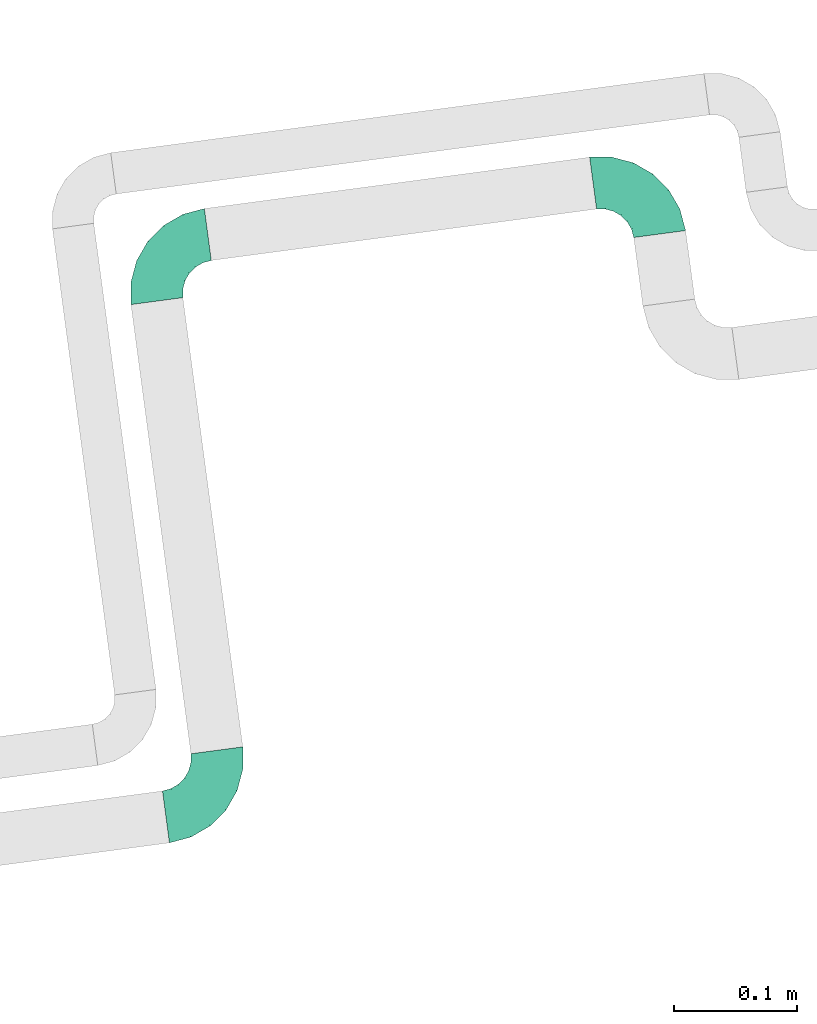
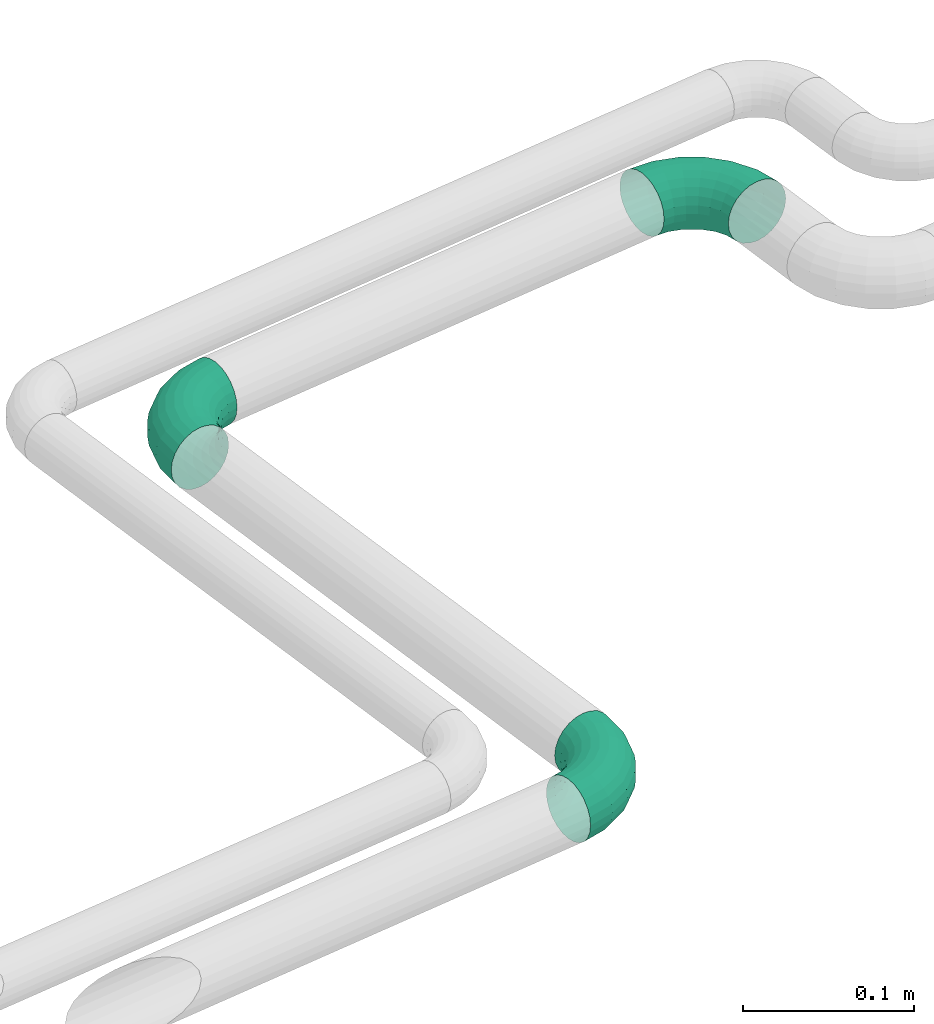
# One storey, part 186 of 374: 3 flow segments.
"""IFC2X3 building model written with IfcOpenShell, lengths in metres."""

from ifc_helpers import new_model, si_unit, direction, origin, place, context, subcontext, project, spatial, open_shell, surface_model, source, transform, mapped, element, save


model = new_model("IFC2X3")

# Units and contexts
model_context = context("Model", 3, precision=1e-05, world=origin(), true_north=direction((-0.4480736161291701, 0.8939966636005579)))
body_context = subcontext(model_context, "Body", "Model", "MODEL_VIEW")
ifc_project = project(units=[si_unit("LENGTHUNIT", "METRE"), si_unit("AREAUNIT", "SQUARE_METRE"), si_unit("VOLUMEUNIT", "CUBIC_METRE"), si_unit("PLANEANGLEUNIT", "RADIAN"), si_unit("THERMODYNAMICTEMPERATUREUNIT", "KELVIN"), si_unit("MASSUNIT", "GRAM", prefix="KILO"), si_unit("TIMEUNIT", "SECOND")], contexts=[model_context])

# Site, building, storey
site_placement = place(None, origin())
site = spatial("IfcSite", under=ifc_project, at=site_placement, Name="Site 1", CompositionType="ELEMENT")
building_placement = place(site_placement, origin())
building = spatial("IfcBuilding", under=site, at=building_placement, Name="Undefined", CompositionType="ELEMENT")
storey_placement = place(building_placement, origin())
storey = spatial("IfcBuildingStorey", under=building, at=storey_placement, Name="Rez de chauss\x8ee", CompositionType="ELEMENT", Elevation=0.0)

# Flow segments
shared_shape_1 = source(origin(), body_context, "Body", "SurfaceModel", [
    surface_model("IfcFaceBasedSurfaceModel", [(0.01806482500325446, 7.105427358e-15, 0.0), (0.017970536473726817, 0.005533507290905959, 0.0), (9.428852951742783e-05, 0.005533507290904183, 1.776356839e-15), (0.0, 0.0, 0.0), (-0.017172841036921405, 0.00613233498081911, -0.004587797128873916), (-0.01744928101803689, 0.0006051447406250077, -0.004636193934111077), (-0.03265412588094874, 0.007289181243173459, -0.013450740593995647), (-0.0330938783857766, 0.0017741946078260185, -0.013592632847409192), (-0.045294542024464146, 0.008925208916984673, -0.02598483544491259), (-0.045867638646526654, 0.0034274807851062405, -0.02625895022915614), (-0.054232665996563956, 0.010928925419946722, -0.041335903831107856), (-0.05490005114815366, 0.005452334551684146, -0.04177195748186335), (-0.05885937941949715, 0.013163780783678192, -0.05845779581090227), (-0.059575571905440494, 0.007710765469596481, -0.05907446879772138), (0.01769409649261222, 0.010875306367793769, -0.0014203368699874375), (0.00037072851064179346, 0.010875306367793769, -0.0014203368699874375), (-0.016362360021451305, 0.011455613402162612, -0.005866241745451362), (-0.03136483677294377, 0.012576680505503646, -0.014455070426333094), (-0.04361430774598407, 0.014162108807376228, -0.026601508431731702), (-0.05227599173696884, 0.016103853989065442, -0.0414777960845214), (-0.05675960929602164, 0.018269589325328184, -0.05807013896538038), (0.017254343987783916, 0.015661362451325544, -0.0041642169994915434), (0.0008104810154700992, 0.015661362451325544, -0.004164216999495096), (-0.01507307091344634, 0.016212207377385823, -0.008384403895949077), (-0.029313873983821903, 0.01727635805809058, -0.016537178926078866), (-0.04094144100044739, 0.01878129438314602, -0.02806694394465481), (-0.049163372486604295, 0.02062445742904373, -0.042187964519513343), (-0.05341935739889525, 0.02268023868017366, -0.05793791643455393), (0.016681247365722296, 0.01956551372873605, -0.008044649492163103), (0.001383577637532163, 0.01956551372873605, -0.008044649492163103), (-0.01339283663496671, 0.020077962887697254, -0.011970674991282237), (-0.026641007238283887, 0.021067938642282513, -0.01955517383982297), (-0.03745809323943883, 0.02246797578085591, -0.03028127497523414), (-0.04510692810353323, 0.0241826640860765, -0.04341801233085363), (-0.04906625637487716, 0.026095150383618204, -0.05807013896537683), (0.016013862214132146, 0.022321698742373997, -0.012797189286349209), (0.0020509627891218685, 0.022321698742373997, -0.012797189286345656), (-0.011436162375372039, 0.02278943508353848, -0.016380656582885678), (-0.023528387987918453, 0.02369303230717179, -0.023303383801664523), (-0.03340164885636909, 0.024970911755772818, -0.03309359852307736), (-0.040383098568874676, 0.026535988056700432, -0.04508411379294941), (-0.04399696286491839, 0.028281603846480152, -0.05845779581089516), (0.015297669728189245, 0.023742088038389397, -0.018097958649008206), (0.00276715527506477, 0.023742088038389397, -0.018097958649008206), (-0.009336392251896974, 0.024161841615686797, -0.021313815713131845), (-0.02018813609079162, 0.02497274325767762, -0.0275263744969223), (-0.029048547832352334, 0.02611953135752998, -0.03631225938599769), (-0.03531380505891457, 0.027524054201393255, -0.04707272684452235), (-0.0385569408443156, 0.02909059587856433, -0.05907446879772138), (0.014581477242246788, 0.023729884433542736, -0.02358571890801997), (0.0034833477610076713, 0.023729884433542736, -0.02358571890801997), (-0.007236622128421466, 0.024101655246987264, -0.026433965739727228), (-0.016847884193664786, 0.02481986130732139, -0.03193635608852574), (-0.02469544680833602, 0.02583555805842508, -0.03971791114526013), (-0.0302445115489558, 0.027079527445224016, -0.04924833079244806), (-0.03311691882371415, 0.02846699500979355, -0.059878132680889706), (0.013914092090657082, 0.02228591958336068, -0.02888648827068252), (0.004150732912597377, 0.022285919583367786, -0.028886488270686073), (-0.005279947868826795, 0.022612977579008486, -0.031392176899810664), (-0.013735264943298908, 0.023244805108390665, -0.03623279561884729), (-0.020639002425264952, 0.02413834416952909, -0.04307846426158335), (-0.025520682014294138, 0.025232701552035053, -0.051462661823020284), (-0.028047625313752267, 0.026453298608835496, -0.060814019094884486), (0.013340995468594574, 0.01950859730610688, -0.03363902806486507), (0.0047238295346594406, 0.01950859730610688, -0.033639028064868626), (-0.0035997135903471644, 0.019797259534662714, -0.035850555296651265), (-0.011062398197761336, 0.0203549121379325, -0.04012289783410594), (-0.017155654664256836, 0.021143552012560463, -0.04616490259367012), (-0.02146423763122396, 0.022109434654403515, -0.05356481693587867), (-0.02369452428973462, 0.023186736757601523, -0.06181834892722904), (0.012901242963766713, 0.015587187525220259, -0.037519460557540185), (0.005163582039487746, 0.015587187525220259, -0.03751946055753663), (-0.0023104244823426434, 0.015846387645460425, -0.03950526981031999), (-0.009011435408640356, 0.016347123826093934, -0.043341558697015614), (-0.01448278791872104, 0.017055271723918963, -0.048766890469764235), (-0.018351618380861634, 0.017922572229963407, -0.05541153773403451), (-0.02035427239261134, 0.018889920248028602, -0.06282267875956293), (0.012624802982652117, 0.010788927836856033, -0.040263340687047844), (0.005440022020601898, 0.010788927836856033, -0.0402633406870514), (-0.0014999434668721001, 0.011029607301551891, -0.04210725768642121), (-0.007722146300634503, 0.01149456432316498, -0.045669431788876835), (-0.012802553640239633, 0.012152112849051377, -0.05070710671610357), (-0.0163949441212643, 0.012957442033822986, -0.056876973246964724), (-0.018254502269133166, 0.013855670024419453, -0.06375856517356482), (0.012530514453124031, 0.005440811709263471, -0.041683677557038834), (0.005534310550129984, 0.0054408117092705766, -0.041683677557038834), (-0.0012235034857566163, 0.005675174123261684, -0.04347919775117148), (-0.007282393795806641, 0.006127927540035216, -0.046947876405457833), (-0.012229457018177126, 0.0067682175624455, -0.05185332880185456), (-0.015727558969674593, 0.007552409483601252, -0.05786125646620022), (-0.01753830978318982, 0.008427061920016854, -0.0645622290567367), (0.012624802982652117, -9.269558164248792e-05, -0.04168367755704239), (0.005440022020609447, -9.269558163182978e-05, -0.04168367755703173), (0.005440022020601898, -9.269558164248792e-05, -0.04168367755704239), (-0.0014999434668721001, 0.00014798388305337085, -0.0435275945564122), (-0.007722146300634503, 0.0006129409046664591, -0.047089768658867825), (-0.012802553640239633, 0.001270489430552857, -0.05212744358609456), (-0.0163949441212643, 0.002075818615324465, -0.058297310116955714), (-0.018254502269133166, 0.0029740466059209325, -0.06517890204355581), (0.012901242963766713, -0.005434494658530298, -0.0402633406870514), (0.005163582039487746, -0.005434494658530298, -0.040263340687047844), (-0.0023104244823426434, -0.005175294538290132, -0.0422491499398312), (-0.009011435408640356, -0.004674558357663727, -0.046085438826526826), (-0.01448278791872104, -0.0039664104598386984, -0.051510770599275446), (-0.018351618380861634, -0.0030991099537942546, -0.05815541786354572), (-0.02035427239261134, -0.0021317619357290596, -0.06556655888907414), (0.013340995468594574, -0.010220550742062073, -0.03751946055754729), (0.0047238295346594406, -0.010220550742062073, -0.03751946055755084), (-0.0035997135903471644, -0.009931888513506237, -0.03973098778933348), (-0.011062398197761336, -0.009374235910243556, -0.04400333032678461), (-0.017155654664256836, -0.00858559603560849, -0.05004533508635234), (-0.02146423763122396, -0.007619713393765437, -0.057445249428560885), (-0.02369452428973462, -0.006542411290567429, -0.06569878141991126), (0.013914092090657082, -0.01412470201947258, -0.03363902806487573), (0.004150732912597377, -0.014124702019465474, -0.033639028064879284), (-0.005279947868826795, -0.013797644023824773, -0.036144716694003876), (-0.013735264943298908, -0.013165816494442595, -0.0409853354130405), (-0.020639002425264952, -0.012272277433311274, -0.04783100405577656), (-0.025520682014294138, -0.011177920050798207, -0.05621520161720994), (-0.028047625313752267, -0.009957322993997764, -0.0655665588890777), (0.014581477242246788, -0.01688088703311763, -0.028886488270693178), (0.0034833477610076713, -0.01688088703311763, -0.028886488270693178), (-0.007236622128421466, -0.016509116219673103, -0.031734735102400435), (-0.016847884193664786, -0.015790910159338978, -0.03723712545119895), (-0.02469544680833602, -0.014775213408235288, -0.04501868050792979), (-0.0302445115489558, -0.01353124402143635, -0.054549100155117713), (-0.03311691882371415, -0.012143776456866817, -0.06517890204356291), (0.015297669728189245, -0.01830127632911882, -0.02358571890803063), (0.00276715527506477, -0.01830127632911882, -0.02358571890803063), (-0.009336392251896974, -0.01788152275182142, -0.026801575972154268), (-0.02018813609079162, -0.017070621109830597, -0.033014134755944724), (-0.029048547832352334, -0.01592383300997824, -0.04180001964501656), (-0.03531380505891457, -0.014519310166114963, -0.05256048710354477), (-0.0385569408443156, -0.012952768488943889, -0.06456222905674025), (0.016013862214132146, -0.01828907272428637, -0.018097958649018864), (0.0020509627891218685, -0.01828907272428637, -0.018097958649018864), (-0.011436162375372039, -0.01782133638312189, -0.021681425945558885), (-0.023528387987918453, -0.016917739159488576, -0.02860415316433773), (-0.03340164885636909, -0.01563985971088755, -0.038394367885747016), (-0.040383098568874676, -0.014074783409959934, -0.05038488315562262), (-0.04399696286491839, -0.012329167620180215, -0.06375856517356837), (0.016681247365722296, -0.01684510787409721, -0.012797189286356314), (0.001383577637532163, -0.01684510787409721, -0.012797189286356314), (-0.01339283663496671, -0.016332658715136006, -0.01672321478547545), (-0.026641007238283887, -0.015342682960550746, -0.02430771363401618), (-0.03745809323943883, -0.01394264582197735, -0.03503381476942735), (-0.04510692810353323, -0.01222795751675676, -0.04817055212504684), (-0.04906625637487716, -0.010315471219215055, -0.06282267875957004), (0.017254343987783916, -0.014067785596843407, -0.008044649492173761), (0.0008104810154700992, -0.014067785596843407, -0.008044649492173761), (-0.01507307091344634, -0.013516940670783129, -0.012264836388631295), (-0.029313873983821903, -0.012452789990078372, -0.020417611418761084), (-0.04094144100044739, -0.010947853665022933, -0.03194737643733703), (-0.049163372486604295, -0.009104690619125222, -0.04606839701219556), (-0.05341935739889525, -0.007048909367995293, -0.06181834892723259), (0.01769409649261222, -0.010146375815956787, -0.004164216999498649), (0.00037072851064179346, -0.010146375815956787, -0.004164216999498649), (-0.016362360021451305, -0.009566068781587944, -0.008610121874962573), (-0.03136483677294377, -0.008445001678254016, -0.017198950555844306), (-0.04361430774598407, -0.006859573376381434, -0.029345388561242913), (-0.05227599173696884, -0.00491782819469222, -0.04422167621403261), (-0.05675960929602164, -0.002752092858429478, -0.060814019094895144), (0.017970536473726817, -0.0053481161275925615, -0.0014203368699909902), (9.428852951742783e-05, -0.0053481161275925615, -0.0014203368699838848), (-0.017172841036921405, -0.004749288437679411, -0.006008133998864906), (-0.03265412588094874, -0.0035924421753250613, -0.014871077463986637), (-0.045294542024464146, -0.001956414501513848, -0.02740517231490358), (-0.05423266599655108, 4.73020014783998e-05, -0.042756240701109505), (-0.05885937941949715, 0.002282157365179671, -0.05987813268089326)], [open_shell([[[0, 1, 2, 3]], [[3, 2, 4, 5]], [[5, 4, 6, 7]], [[7, 6, 8, 9]], [[9, 8, 10, 11]], [[11, 10, 12, 13]], [[1, 14, 15, 2]], [[2, 15, 16, 4]], [[4, 16, 17, 6]], [[6, 17, 18, 8]], [[8, 18, 19, 10]], [[10, 19, 20, 12]], [[14, 21, 22, 15]], [[15, 22, 23, 16]], [[16, 23, 24, 17]], [[17, 24, 25, 18]], [[18, 25, 26, 19]], [[19, 26, 27, 20]], [[21, 28, 29, 22]], [[22, 29, 30, 23]], [[23, 30, 31, 24]], [[24, 31, 32, 25]], [[25, 32, 33, 26]], [[26, 33, 34, 27]], [[28, 35, 36, 29]], [[29, 36, 37, 30]], [[30, 37, 38, 31]], [[31, 38, 39, 32]], [[32, 39, 40, 33]], [[33, 40, 41, 34]], [[35, 42, 43, 36]], [[36, 43, 44, 37]], [[37, 44, 45, 38]], [[38, 45, 46, 39]], [[39, 46, 47, 40]], [[40, 47, 48, 41]], [[42, 49, 50, 43]], [[43, 50, 51, 44]], [[44, 51, 52, 45]], [[45, 52, 53, 46]], [[46, 53, 54, 47]], [[47, 54, 55, 48]], [[49, 56, 57, 50]], [[50, 57, 58, 51]], [[51, 58, 59, 52]], [[52, 59, 60, 53]], [[53, 60, 61, 54]], [[54, 61, 62, 55]], [[56, 63, 64, 57]], [[57, 64, 65, 58]], [[58, 65, 66, 59]], [[59, 66, 67, 60]], [[60, 67, 68, 61]], [[61, 68, 69, 62]], [[63, 70, 71, 64]], [[64, 71, 72, 65]], [[65, 72, 73, 66]], [[66, 73, 74, 67]], [[67, 74, 75, 68]], [[68, 75, 76, 69]], [[70, 77, 78, 71]], [[71, 78, 79, 72]], [[72, 79, 80, 73]], [[73, 80, 81, 74]], [[74, 81, 82, 75]], [[75, 82, 83, 76]], [[77, 84, 85, 78]], [[78, 85, 86, 79]], [[79, 86, 87, 80]], [[80, 87, 88, 81]], [[81, 88, 89, 82]], [[82, 89, 90, 83]], [[84, 91, 92, 85]], [[85, 93, 94, 86]], [[86, 94, 95, 87]], [[87, 95, 96, 88]], [[88, 96, 97, 89]], [[89, 97, 98, 90]], [[91, 99, 100, 92]], [[93, 100, 101, 94]], [[94, 101, 102, 95]], [[95, 102, 103, 96]], [[96, 103, 104, 97]], [[97, 104, 105, 98]], [[99, 106, 107, 100]], [[100, 107, 108, 101]], [[101, 108, 109, 102]], [[102, 109, 110, 103]], [[103, 110, 111, 104]], [[104, 111, 112, 105]], [[106, 113, 114, 107]], [[107, 114, 115, 108]], [[108, 115, 116, 109]], [[109, 116, 117, 110]], [[110, 117, 118, 111]], [[111, 118, 119, 112]], [[113, 120, 121, 114]], [[114, 121, 122, 115]], [[115, 122, 123, 116]], [[116, 123, 124, 117]], [[117, 124, 125, 118]], [[118, 125, 126, 119]], [[120, 127, 128, 121]], [[121, 128, 129, 122]], [[122, 129, 130, 123]], [[123, 130, 131, 124]], [[124, 131, 132, 125]], [[125, 132, 133, 126]], [[127, 134, 135, 128]], [[128, 135, 136, 129]], [[129, 136, 137, 130]], [[130, 137, 138, 131]], [[131, 138, 139, 132]], [[132, 139, 140, 133]], [[134, 141, 142, 135]], [[135, 142, 143, 136]], [[136, 143, 144, 137]], [[137, 144, 145, 138]], [[138, 145, 146, 139]], [[139, 146, 147, 140]], [[141, 148, 149, 142]], [[142, 149, 150, 143]], [[143, 150, 151, 144]], [[144, 151, 152, 145]], [[145, 152, 153, 146]], [[146, 153, 154, 147]], [[148, 155, 156, 149]], [[149, 156, 157, 150]], [[150, 157, 158, 151]], [[151, 158, 159, 152]], [[152, 159, 160, 153]], [[153, 160, 161, 154]], [[155, 162, 163, 156]], [[156, 163, 164, 157]], [[157, 164, 165, 158]], [[158, 165, 166, 159]], [[159, 166, 167, 160]], [[160, 167, 168, 161]], [[162, 0, 3, 163]], [[163, 3, 5, 164]], [[164, 5, 7, 165]], [[165, 7, 9, 166]], [[166, 9, 11, 167]], [[167, 11, 13, 168]]])]),
])
flow_segment_1_placement = place(storey_placement, origin())
element("IfcFlowSegment", 1, at=flow_segment_1_placement, inside=storey, Name="Tube coudé", ObjectType="Tube coudé", context=body_context, shape_type="MappedRepresentation", body=[
    mapped(shared_shape_1, transform((63.766017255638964, 20.22006010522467, 4.0051404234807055), x_axis=(-0.9999984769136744, -0.0017453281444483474, 0.0), y_axis=(0.00022589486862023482, -0.12942811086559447, 0.9915887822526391), z_axis=(-0.0017306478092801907, 0.9915872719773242, 0.12942830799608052))),
])
flow_segment_2_placement = place(storey_placement, origin())
element("IfcFlowSegment", 2, at=flow_segment_2_placement, inside=storey, Name="Tube coudé", ObjectType="Tube coudé", context=body_context, shape_type="MappedRepresentation", body=[
    mapped(shared_shape_1, transform((63.37642499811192, 20.118711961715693, 4.0051404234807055), x_axis=(0.0017453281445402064, -0.999998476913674, 0.0), y_axis=(0.1294281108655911, 0.0002258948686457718, 0.9915887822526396), z_axis=(-0.9915872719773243, -0.0017306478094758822, 0.1294283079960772))),
])
shared_shape_2 = source(origin(), body_context, "Body", "SurfaceModel", [
    surface_model("IfcFaceBasedSurfaceModel", [(0.01806482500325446, 7.105427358e-15, 0.0), (0.017970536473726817, 0.005533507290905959, 0.0), (9.428852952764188e-05, 0.005533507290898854, 0.0), (0.0, 0.0, 0.0), (-0.017172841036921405, 0.00613233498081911, -0.004587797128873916), (-0.01744928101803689, 0.0006051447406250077, -0.004636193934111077), (-0.03265412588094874, 0.007289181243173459, -0.013450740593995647), (-0.0330938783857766, 0.0017741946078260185, -0.013592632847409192), (-0.045294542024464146, 0.008925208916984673, -0.02598483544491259), (-0.045867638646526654, 0.0034274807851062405, -0.02625895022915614), (-0.054232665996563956, 0.010928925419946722, -0.041335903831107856), (-0.05490005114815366, 0.005452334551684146, -0.04177195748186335), (-0.05885937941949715, 0.013163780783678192, -0.05845779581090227), (-0.059575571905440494, 0.007710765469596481, -0.05907446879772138), (0.01769409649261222, 0.010875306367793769, -0.0014203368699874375), (0.00037072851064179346, 0.010875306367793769, -0.0014203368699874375), (-0.016362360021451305, 0.011455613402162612, -0.005866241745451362), (-0.03136483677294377, 0.012576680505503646, -0.014455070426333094), (-0.04361430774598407, 0.014162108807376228, -0.026601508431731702), (-0.05227599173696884, 0.016103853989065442, -0.0414777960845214), (-0.05675960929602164, 0.018269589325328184, -0.05807013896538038), (0.017254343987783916, 0.015661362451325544, -0.0041642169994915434), (0.0008104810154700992, 0.015661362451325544, -0.004164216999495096), (-0.01507307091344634, 0.016212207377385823, -0.008384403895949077), (-0.029313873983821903, 0.01727635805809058, -0.016537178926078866), (-0.04094144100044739, 0.01878129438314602, -0.02806694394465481), (-0.049163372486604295, 0.02062445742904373, -0.042187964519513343), (-0.05341935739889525, 0.02268023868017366, -0.05793791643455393), (0.016681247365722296, 0.01956551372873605, -0.008044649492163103), (0.001383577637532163, 0.01956551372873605, -0.008044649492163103), (-0.01339283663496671, 0.020077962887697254, -0.011970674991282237), (-0.026641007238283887, 0.021067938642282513, -0.01955517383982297), (-0.03745809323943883, 0.02246797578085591, -0.03028127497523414), (-0.04510692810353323, 0.0241826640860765, -0.04341801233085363), (-0.04906625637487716, 0.026095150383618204, -0.05807013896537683), (0.016013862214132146, 0.022321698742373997, -0.012797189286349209), (0.0020509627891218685, 0.022321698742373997, -0.012797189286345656), (-0.011436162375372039, 0.02278943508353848, -0.016380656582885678), (-0.023528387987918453, 0.02369303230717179, -0.023303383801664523), (-0.03340164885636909, 0.024970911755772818, -0.03309359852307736), (-0.040383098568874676, 0.026535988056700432, -0.04508411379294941), (-0.04399696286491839, 0.028281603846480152, -0.05845779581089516), (0.015297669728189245, 0.023742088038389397, -0.018097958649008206), (0.00276715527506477, 0.023742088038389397, -0.018097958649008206), (-0.009336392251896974, 0.024161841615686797, -0.021313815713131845), (-0.02018813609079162, 0.02497274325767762, -0.0275263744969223), (-0.029048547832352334, 0.02611953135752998, -0.03631225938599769), (-0.03531380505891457, 0.027524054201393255, -0.04707272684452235), (-0.0385569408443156, 0.02909059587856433, -0.05907446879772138), (0.014581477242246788, 0.023729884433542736, -0.02358571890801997), (0.0034833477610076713, 0.023729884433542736, -0.02358571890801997), (-0.007236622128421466, 0.024101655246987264, -0.026433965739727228), (-0.016847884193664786, 0.02481986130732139, -0.03193635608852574), (-0.02469544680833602, 0.02583555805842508, -0.03971791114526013), (-0.0302445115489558, 0.027079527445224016, -0.04924833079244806), (-0.03311691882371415, 0.02846699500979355, -0.059878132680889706), (0.013914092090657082, 0.02228591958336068, -0.02888648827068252), (0.004150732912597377, 0.022285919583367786, -0.028886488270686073), (-0.005279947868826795, 0.022612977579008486, -0.031392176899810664), (-0.013735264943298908, 0.023244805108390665, -0.03623279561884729), (-0.020639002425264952, 0.02413834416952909, -0.04307846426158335), (-0.025520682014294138, 0.025232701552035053, -0.051462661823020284), (-0.028047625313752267, 0.026453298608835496, -0.060814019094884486), (0.013340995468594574, 0.01950859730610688, -0.03363902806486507), (0.0047238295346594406, 0.01950859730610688, -0.033639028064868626), (-0.0035997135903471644, 0.019797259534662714, -0.035850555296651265), (-0.011062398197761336, 0.0203549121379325, -0.04012289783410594), (-0.017155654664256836, 0.021143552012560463, -0.04616490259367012), (-0.02146423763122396, 0.022109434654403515, -0.05356481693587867), (-0.02369452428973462, 0.023186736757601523, -0.06181834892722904), (0.012901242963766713, 0.015587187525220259, -0.037519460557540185), (0.005163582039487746, 0.015587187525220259, -0.03751946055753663), (-0.0023104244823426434, 0.015846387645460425, -0.03950526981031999), (-0.009011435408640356, 0.016347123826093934, -0.043341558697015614), (-0.01448278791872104, 0.017055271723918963, -0.048766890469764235), (-0.018351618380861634, 0.017922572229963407, -0.05541153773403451), (-0.02035427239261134, 0.018889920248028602, -0.06282267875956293), (0.012624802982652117, 0.010788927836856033, -0.040263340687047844), (0.005440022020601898, 0.010788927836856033, -0.0402633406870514), (-0.0014999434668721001, 0.011029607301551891, -0.04210725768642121), (-0.007722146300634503, 0.01149456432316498, -0.045669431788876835), (-0.012802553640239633, 0.012152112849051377, -0.05070710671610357), (-0.0163949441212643, 0.012957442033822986, -0.056876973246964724), (-0.018254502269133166, 0.013855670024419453, -0.06375856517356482), (0.012530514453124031, 0.005440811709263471, -0.041683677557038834), (0.005534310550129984, 0.0054408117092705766, -0.041683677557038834), (-0.0012235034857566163, 0.005675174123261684, -0.04347919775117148), (-0.007282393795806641, 0.006127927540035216, -0.046947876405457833), (-0.012229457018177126, 0.0067682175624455, -0.05185332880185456), (-0.015727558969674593, 0.007552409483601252, -0.05786125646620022), (-0.01753830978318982, 0.008427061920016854, -0.0645622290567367), (0.012624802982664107, -9.269558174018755e-05, -0.041683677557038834), (0.0054400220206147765, -9.26955817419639e-05, -0.04168367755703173), (-0.0014999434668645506, 0.00014798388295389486, -0.043527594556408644), (-0.007722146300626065, 0.0006129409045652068, -0.04708976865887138), (-0.012802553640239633, 0.001270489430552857, -0.05212744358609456), (-0.0163949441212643, 0.002075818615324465, -0.058297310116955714), (-0.018254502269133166, 0.0029740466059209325, -0.06517890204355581), (0.012901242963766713, -0.005434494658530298, -0.0402633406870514), (0.005163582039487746, -0.005434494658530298, -0.040263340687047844), (-0.0023104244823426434, -0.005175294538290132, -0.0422491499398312), (-0.009011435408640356, -0.004674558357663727, -0.046085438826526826), (-0.01448278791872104, -0.0039664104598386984, -0.051510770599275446), (-0.018351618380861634, -0.0030991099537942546, -0.05815541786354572), (-0.02035427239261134, -0.0021317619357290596, -0.06556655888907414), (0.013340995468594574, -0.010220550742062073, -0.03751946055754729), (0.0047238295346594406, -0.010220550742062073, -0.03751946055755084), (-0.0035997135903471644, -0.009931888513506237, -0.03973098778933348), (-0.011062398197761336, -0.009374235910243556, -0.04400333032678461), (-0.017155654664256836, -0.00858559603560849, -0.05004533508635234), (-0.02146423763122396, -0.007619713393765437, -0.057445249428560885), (-0.02369452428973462, -0.006542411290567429, -0.06569878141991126), (0.013914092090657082, -0.01412470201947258, -0.03363902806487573), (0.004150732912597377, -0.014124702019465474, -0.033639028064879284), (-0.005279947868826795, -0.013797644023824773, -0.036144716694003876), (-0.013735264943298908, -0.013165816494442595, -0.0409853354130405), (-0.020639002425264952, -0.012272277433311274, -0.04783100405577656), (-0.025520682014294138, -0.011177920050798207, -0.05621520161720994), (-0.028047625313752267, -0.009957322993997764, -0.0655665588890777), (0.014581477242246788, -0.01688088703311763, -0.028886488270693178), (0.0034833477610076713, -0.01688088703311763, -0.028886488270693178), (-0.007236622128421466, -0.016509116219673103, -0.031734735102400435), (-0.016847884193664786, -0.015790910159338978, -0.03723712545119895), (-0.02469544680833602, -0.014775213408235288, -0.04501868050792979), (-0.0302445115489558, -0.01353124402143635, -0.054549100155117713), (-0.03311691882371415, -0.012143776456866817, -0.06517890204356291), (0.015297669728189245, -0.01830127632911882, -0.02358571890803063), (0.00276715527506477, -0.01830127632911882, -0.02358571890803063), (-0.009336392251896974, -0.01788152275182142, -0.026801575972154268), (-0.02018813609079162, -0.017070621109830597, -0.033014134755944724), (-0.029048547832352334, -0.01592383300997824, -0.04180001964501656), (-0.03531380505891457, -0.014519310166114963, -0.05256048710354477), (-0.0385569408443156, -0.012952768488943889, -0.06456222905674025), (0.016013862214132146, -0.01828907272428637, -0.018097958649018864), (0.0020509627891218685, -0.01828907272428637, -0.018097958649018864), (-0.011436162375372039, -0.01782133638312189, -0.021681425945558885), (-0.023528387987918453, -0.016917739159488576, -0.02860415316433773), (-0.03340164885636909, -0.01563985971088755, -0.038394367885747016), (-0.040383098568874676, -0.014074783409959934, -0.05038488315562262), (-0.04399696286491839, -0.012329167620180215, -0.06375856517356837), (0.016681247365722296, -0.01684510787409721, -0.012797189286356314), (0.001383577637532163, -0.01684510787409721, -0.012797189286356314), (-0.01339283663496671, -0.016332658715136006, -0.01672321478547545), (-0.026641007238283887, -0.015342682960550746, -0.02430771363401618), (-0.03745809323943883, -0.01394264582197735, -0.03503381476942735), (-0.04510692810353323, -0.01222795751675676, -0.04817055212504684), (-0.04906625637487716, -0.010315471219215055, -0.06282267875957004), (0.017254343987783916, -0.014067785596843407, -0.008044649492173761), (0.0008104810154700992, -0.014067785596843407, -0.008044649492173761), (-0.01507307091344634, -0.013516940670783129, -0.012264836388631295), (-0.029313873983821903, -0.012452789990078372, -0.020417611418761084), (-0.04094144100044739, -0.010947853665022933, -0.03194737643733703), (-0.049163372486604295, -0.009104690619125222, -0.04606839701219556), (-0.05341935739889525, -0.007048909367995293, -0.06181834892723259), (0.01769409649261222, -0.010146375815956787, -0.004164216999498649), (0.00037072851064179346, -0.010146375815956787, -0.004164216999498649), (-0.016362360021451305, -0.009566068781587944, -0.008610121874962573), (-0.03136483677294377, -0.008445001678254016, -0.017198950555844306), (-0.04361430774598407, -0.006859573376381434, -0.029345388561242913), (-0.05227599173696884, -0.00491782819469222, -0.04422167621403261), (-0.05675960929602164, -0.002752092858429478, -0.060814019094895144), (0.017970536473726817, -0.0053481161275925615, -0.0014203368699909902), (9.428852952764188e-05, -0.005348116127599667, -0.001420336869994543), (-0.017172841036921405, -0.004749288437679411, -0.006008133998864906), (-0.03265412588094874, -0.0035924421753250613, -0.014871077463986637), (-0.045294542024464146, -0.001956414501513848, -0.02740517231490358), (-0.05423266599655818, 4.730200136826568e-05, -0.042756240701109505), (-0.05885937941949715, 0.002282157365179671, -0.05987813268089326)], [open_shell([[[0, 1, 2, 3]], [[3, 2, 4, 5]], [[5, 4, 6, 7]], [[7, 6, 8, 9]], [[9, 8, 10, 11]], [[11, 10, 12, 13]], [[1, 14, 15, 2]], [[2, 15, 16, 4]], [[4, 16, 17, 6]], [[6, 17, 18, 8]], [[8, 18, 19, 10]], [[10, 19, 20, 12]], [[14, 21, 22, 15]], [[15, 22, 23, 16]], [[16, 23, 24, 17]], [[17, 24, 25, 18]], [[18, 25, 26, 19]], [[19, 26, 27, 20]], [[21, 28, 29, 22]], [[22, 29, 30, 23]], [[23, 30, 31, 24]], [[24, 31, 32, 25]], [[25, 32, 33, 26]], [[26, 33, 34, 27]], [[28, 35, 36, 29]], [[29, 36, 37, 30]], [[30, 37, 38, 31]], [[31, 38, 39, 32]], [[32, 39, 40, 33]], [[33, 40, 41, 34]], [[35, 42, 43, 36]], [[36, 43, 44, 37]], [[37, 44, 45, 38]], [[38, 45, 46, 39]], [[39, 46, 47, 40]], [[40, 47, 48, 41]], [[42, 49, 50, 43]], [[43, 50, 51, 44]], [[44, 51, 52, 45]], [[45, 52, 53, 46]], [[46, 53, 54, 47]], [[47, 54, 55, 48]], [[49, 56, 57, 50]], [[50, 57, 58, 51]], [[51, 58, 59, 52]], [[52, 59, 60, 53]], [[53, 60, 61, 54]], [[54, 61, 62, 55]], [[56, 63, 64, 57]], [[57, 64, 65, 58]], [[58, 65, 66, 59]], [[59, 66, 67, 60]], [[60, 67, 68, 61]], [[61, 68, 69, 62]], [[63, 70, 71, 64]], [[64, 71, 72, 65]], [[65, 72, 73, 66]], [[66, 73, 74, 67]], [[67, 74, 75, 68]], [[68, 75, 76, 69]], [[70, 77, 78, 71]], [[71, 78, 79, 72]], [[72, 79, 80, 73]], [[73, 80, 81, 74]], [[74, 81, 82, 75]], [[75, 82, 83, 76]], [[77, 84, 85, 78]], [[78, 85, 86, 79]], [[79, 86, 87, 80]], [[80, 87, 88, 81]], [[81, 88, 89, 82]], [[82, 89, 90, 83]], [[84, 91, 92, 85]], [[85, 92, 93, 86]], [[86, 93, 94, 87]], [[87, 94, 95, 88]], [[88, 95, 96, 89]], [[89, 96, 97, 90]], [[91, 98, 99, 92]], [[92, 99, 100, 93]], [[93, 100, 101, 94]], [[94, 101, 102, 95]], [[95, 102, 103, 96]], [[96, 103, 104, 97]], [[98, 105, 106, 99]], [[99, 106, 107, 100]], [[100, 107, 108, 101]], [[101, 108, 109, 102]], [[102, 109, 110, 103]], [[103, 110, 111, 104]], [[105, 112, 113, 106]], [[106, 113, 114, 107]], [[107, 114, 115, 108]], [[108, 115, 116, 109]], [[109, 116, 117, 110]], [[110, 117, 118, 111]], [[112, 119, 120, 113]], [[113, 120, 121, 114]], [[114, 121, 122, 115]], [[115, 122, 123, 116]], [[116, 123, 124, 117]], [[117, 124, 125, 118]], [[119, 126, 127, 120]], [[120, 127, 128, 121]], [[121, 128, 129, 122]], [[122, 129, 130, 123]], [[123, 130, 131, 124]], [[124, 131, 132, 125]], [[126, 133, 134, 127]], [[127, 134, 135, 128]], [[128, 135, 136, 129]], [[129, 136, 137, 130]], [[130, 137, 138, 131]], [[131, 138, 139, 132]], [[133, 140, 141, 134]], [[134, 141, 142, 135]], [[135, 142, 143, 136]], [[136, 143, 144, 137]], [[137, 144, 145, 138]], [[138, 145, 146, 139]], [[140, 147, 148, 141]], [[141, 148, 149, 142]], [[142, 149, 150, 143]], [[143, 150, 151, 144]], [[144, 151, 152, 145]], [[145, 152, 153, 146]], [[147, 154, 155, 148]], [[148, 155, 156, 149]], [[149, 156, 157, 150]], [[150, 157, 158, 151]], [[151, 158, 159, 152]], [[152, 159, 160, 153]], [[154, 161, 162, 155]], [[155, 162, 163, 156]], [[156, 163, 164, 157]], [[157, 164, 165, 158]], [[158, 165, 166, 159]], [[159, 166, 167, 160]], [[161, 0, 3, 162]], [[162, 3, 5, 163]], [[163, 5, 7, 164]], [[164, 7, 9, 165]], [[165, 9, 11, 166]], [[166, 11, 13, 167]]])]),
])
flow_segment_3_placement = place(storey_placement, origin())
element("IfcFlowSegment", 3, at=flow_segment_3_placement, inside=storey, Name="Tube coudé", ObjectType="Tube coudé", context=body_context, shape_type="MappedRepresentation", body=[
    mapped(shared_shape_2, transform((63.467063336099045, 19.724341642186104, 4.0051404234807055), x_axis=(-0.001745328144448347, 0.9999984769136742, 0.0), y_axis=(-0.12942811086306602, -0.00022589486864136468, 0.9915887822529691), z_axis=(0.9915872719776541, 0.0017306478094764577, 0.12942830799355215))),
])

save(model, "model.ifc")
